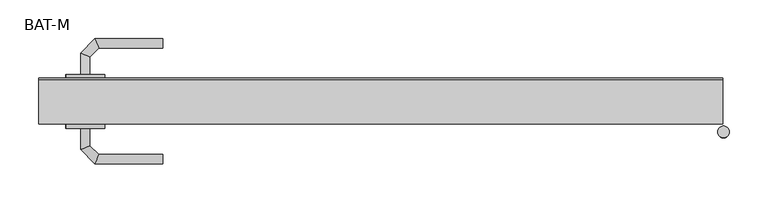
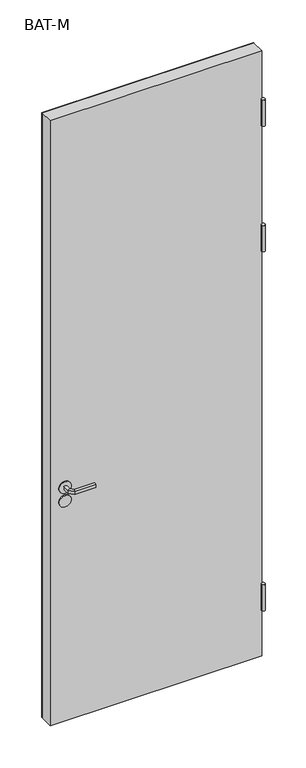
"""IFC4 building model written with IfcOpenShell, lengths in millimetres: proxy geometry, BAT-M : Défaut."""

from ifc_helpers import new_model, si_unit, point, frame, frame_2d, origin, place, context, project, spatial, polyline, circle_curve, ellipse_curve, trimmed, segment, composite_curve, outline, extrude, source, transform, mapped, element, save
from ifc_brep_helpers import plane_surface, cylinder_surface, advanced_brep


def bat_m_3c3fd91e(model_context):
    return source(origin(), model_context, "Body", "SolidModel", [
        extrude(outline(composite_curve([segment(polyline([(1126.0, -807.5306002), (1126.0, -872.5306002), (916.0, -872.5306002), (916.0, -807.5306002)]), True, "CONTINUOUS"), segment(trimmed(circle_curve(frame_2d((956.0, -807.5306002)), 40.0), [point((916.0, -807.5306002))], [point((956.0, -767.5306002))], False, "CARTESIAN"), True, "CONTINUOUS"), segment(polyline([(956.0, -767.5306002), (1086.0, -767.5306002)]), True, "CONTINUOUS"), segment(trimmed(circle_curve(frame_2d((1086.0, -807.5306002)), 40.0), [point((1086.0, -767.5306002))], [point((1126.0, -807.5306002))], False, "CARTESIAN"), True, "CONTINUOUS")], self_intersect=False)), frame((0.0, 7.9132708, 0.0), z_axis=(0.0, 1.0, 0.0), x_axis=(0.0, 0.0, 1.0)), (0.0, 0.0, 1.0), 43.4267377),
        extrude(outline(composite_curve([segment(trimmed(circle_curve(frame_2d((1051.0, -822.7739009)), 25.0), [point((1051.0, -847.7739009))], [point((1051.0, -797.7739009))], False, "CARTESIAN"), True, "CONTINUOUS"), segment(trimmed(circle_curve(frame_2d((1051.0, -822.7739009)), 25.0), [point((1051.0, -797.7739009))], [point((1051.0, -847.7739009))], False, "CARTESIAN"), True, "CONTINUOUS")], self_intersect=False)), frame((0.0, 59.5, 0.0), z_axis=(0.0, 1.0, 0.0), x_axis=(0.0, 0.0, 1.0)), (0.0, 0.0, 1.0), 5.0),
        extrude(outline(composite_curve([segment(trimmed(circle_curve(frame_2d((991.25, -822.9257392)), 25.0), [point((991.25, -847.9257392))], [point((991.25, -797.9257392))], False, "CARTESIAN"), True, "CONTINUOUS"), segment(trimmed(circle_curve(frame_2d((991.25, -822.9257392)), 25.0), [point((991.25, -797.9257392))], [point((991.25, -847.9257392))], False, "CARTESIAN"), True, "CONTINUOUS")], self_intersect=False)), frame((0.0, 59.5, 0.0), z_axis=(0.0, 1.0, 0.0), x_axis=(0.0, 0.0, 1.0)), (0.0, 0.0, 1.0), 5.0),
        advanced_brep(
        [(-817.0, 64.5, 1044.0), (-817.0, 64.5, 1058.0), (-829.0, 64.5, 1058.0), (-829.0, 64.5, 1044.0), (-817.0, 86.9852045, 1044.0), (-817.0, 86.9852045, 1058.0), (-829.0, 91.9557673, 1058.0), (-829.0, 91.9557673, 1044.0), (-805.5147186, 98.4704859, 1044.0), (-805.5147186, 98.4704859, 1058.0), (-810.4852814, 110.4704859, 1058.0), (-810.4852814, 110.4704859, 1044.0), (-722.9542163, 98.4704859, 1044.0), (-722.9542163, 110.4704859, 1044.0), (-722.9542163, 110.4704859, 1058.0), (-722.9542163, 98.4704859, 1058.0)],
        [
            (0, 1),
            (1, 2, circle_curve(frame((-823.0, 64.5, 1037.9542278), z_axis=(0.0, -1.0, 0.0), x_axis=(-1.0, 0.0, 0.0)), 20.9244589)),
            (2, 3),
            (3, 0, circle_curve(frame((-823.0, 64.5, 1064.0457722), z_axis=(0.0, -1.0, 0.0), x_axis=(-1.0, 0.0, 0.0)), 20.9244589)),
            (0, 4),
            (4, 5),
            (5, 1),
            (5, 6, ellipse_curve(frame((-823.0, 89.4704859, 1037.9542278), z_axis=(-0.3826834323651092, -0.9238795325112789, 0.0), x_axis=(0.9238795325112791, -0.3826834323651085, 0.0)), 22.6484711, 20.9244589)),
            (6, 2),
            (6, 7),
            (7, 3),
            (7, 4, ellipse_curve(frame((-823.0, 89.4704859, 1064.0457722), z_axis=(-0.3826834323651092, -0.9238795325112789, 0.0), x_axis=(0.9238795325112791, -0.3826834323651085, 0.0)), 22.6484711, 20.9244589)),
            (4, 8),
            (8, 9),
            (9, 5),
            (9, 10, ellipse_curve(frame((-808.0, 104.4704859, 1037.9542278), z_axis=(-0.923879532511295, -0.38268343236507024, 0.0), x_axis=(0.3826834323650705, -0.9238795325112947, 0.0)), 22.6484711, 20.9244589)),
            (10, 6),
            (10, 11),
            (11, 7),
            (11, 8, ellipse_curve(frame((-808.0, 104.4704859, 1064.0457722), z_axis=(-0.923879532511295, -0.38268343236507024, 0.0), x_axis=(0.3826834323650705, -0.9238795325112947, 0.0)), 22.6484711, 20.9244589)),
            (12, 13, circle_curve(frame((-722.9542163, 104.4704859, 1064.0457722), z_axis=(1.0, 0.0, 0.0), x_axis=(0.0, 1.0, 0.0)), 20.9244589)),
            (13, 14),
            (14, 15, circle_curve(frame((-722.9542163, 104.4704859, 1037.9542278), z_axis=(1.0, 0.0, 0.0), x_axis=(0.0, 1.0, 0.0)), 20.9244589)),
            (15, 12),
            (8, 12),
            (15, 9),
            (14, 10),
            (13, 11),
        ],
        [
            plane_surface(frame((-832.2195445, 64.5, 1051.0), z_axis=(0.0, -1.0, 0.0), x_axis=(0.0, 0.0, 1.0))),
            plane_surface(frame((-817.0, 64.5, 1044.0), z_axis=(1.0, 0.0, 0.0), x_axis=(0.0, 1.0, 0.0))),
            cylinder_surface(frame((-823.0, 64.5, 1037.9542278), z_axis=(0.0, -1.0, 0.0), x_axis=(-1.0, 0.0, 0.0)), 20.9244589),
            plane_surface(frame((-829.0, 64.5, 1058.0), z_axis=(-1.0, 0.0, 0.0), x_axis=(0.0, 1.0, 0.0))),
            cylinder_surface(frame((-823.0, 64.5, 1064.0457722), z_axis=(0.0, -1.0, 0.0), x_axis=(-1.0, 0.0, 0.0)), 20.9244589),
            plane_surface(frame((-817.0, 86.9852045, 1044.0), z_axis=(0.7071067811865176, -0.7071067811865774, 0.0), x_axis=(0.7071067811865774, 0.7071067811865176, 0.0))),
            cylinder_surface(frame((-823.0, 89.4704859, 1037.9542278), z_axis=(-0.7071067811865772, -0.7071067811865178, 0.0), x_axis=(-0.7071067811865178, 0.7071067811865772, 0.0)), 20.9244589),
            plane_surface(frame((-829.0, 91.9557673, 1058.0), z_axis=(-0.7071067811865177, 0.7071067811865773, 0.0), x_axis=(0.7071067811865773, 0.7071067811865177, 0.0))),
            cylinder_surface(frame((-823.0, 89.4704859, 1064.0457722), z_axis=(-0.7071067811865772, -0.7071067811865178, 0.0), x_axis=(-0.7071067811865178, 0.7071067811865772, 0.0)), 20.9244589),
            plane_surface(frame((-722.9542163, 104.4704859, 1041.7804555), z_axis=(1.0, 0.0, 0.0), x_axis=(0.0, 1.0, 0.0))),
            plane_surface(frame((-805.5147186, 98.4704859, 1044.0), z_axis=(0.0, -1.0, 0.0), x_axis=(1.0, 0.0, 0.0))),
            cylinder_surface(frame((-808.0, 104.4704859, 1037.9542278), z_axis=(-1.0, 0.0, 0.0), x_axis=(0.0, 1.0, 0.0)), 20.9244589),
            plane_surface(frame((-810.4852814, 110.4704859, 1058.0), z_axis=(0.0, 1.0, 0.0), x_axis=(1.0, 0.0, 0.0))),
            cylinder_surface(frame((-808.0, 104.4704859, 1064.0457722), z_axis=(-1.0, 0.0, 0.0), x_axis=(0.0, 1.0, 0.0)), 20.9244589),
        ],
        [
            (0, [[1, 2, 3, 4]]),
            (1, [[-1, 5, 6, 7]]),
            (2, [[-2, -7, 8, 9]]),
            (3, [[-3, -9, 10, 11]]),
            (4, [[-4, -11, 12, -5]]),
            (5, [[-6, 13, 14, 15]]),
            (6, [[-8, -15, 16, 17]]),
            (7, [[-10, -17, 18, 19]]),
            (8, [[-12, -19, 20, -13]]),
            (9, [[21, 22, 23, 24]]),
            (10, [[-14, 25, -24, 26]]),
            (11, [[-16, -26, -23, 27]]),
            (12, [[-18, -27, -22, 28]]),
            (13, [[-20, -28, -21, -25]]),
        ],
    ),
        advanced_brep(
        [(-829.0, -5.0, 1058.0), (-817.0, -5.0, 1058.0), (-817.0, -5.0, 1044.0), (-829.0, -5.0, 1044.0), (-829.0, -32.6509507, 1058.0), (-817.0, -27.680388, 1058.0), (-817.0, -27.680388, 1044.0), (-829.0, -32.6509507, 1044.0), (-810.62279, -51.0281607, 1058.0), (-805.6522273, -39.0281607, 1058.0), (-805.6522273, -39.0281607, 1044.0), (-810.62279, -51.0281607, 1044.0), (-722.9813594, -51.0281607, 1058.0), (-722.9813594, -51.0281607, 1044.0), (-722.9813594, -39.0281607, 1044.0), (-722.9813594, -39.0281607, 1058.0)],
        [
            (0, 1, circle_curve(frame((-823.0, -5.0, 1037.9542278), z_axis=(0.0, 1.0, 0.0), x_axis=(1.0, 0.0, 0.0)), 20.9244589)),
            (1, 2),
            (2, 3, circle_curve(frame((-823.0, -5.0, 1064.0457722), z_axis=(0.0, 1.0, 0.0), x_axis=(1.0, 0.0, 0.0)), 20.9244589)),
            (3, 0),
            (0, 4),
            (4, 5, ellipse_curve(frame((-823.0, -30.1656693, 1037.9542278), z_axis=(-0.38268343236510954, 0.9238795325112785, 0.0), x_axis=(0.9238795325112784, 0.38268343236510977, 0.0)), 22.6484711, 20.9244589)),
            (5, 1),
            (5, 6),
            (6, 2),
            (6, 7, ellipse_curve(frame((-823.0, -30.1656693, 1064.0457722), z_axis=(-0.38268343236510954, 0.9238795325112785, 0.0), x_axis=(0.9238795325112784, 0.38268343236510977, 0.0)), 22.6484711, 20.9244589)),
            (7, 3),
            (7, 4),
            (4, 8),
            (8, 9, ellipse_curve(frame((-808.1375086, -45.0281607, 1037.9542278), z_axis=(-0.9238795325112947, 0.38268343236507, 0.0), x_axis=(0.38268343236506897, 0.9238795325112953, 0.0)), 22.6484711, 20.9244589)),
            (9, 5),
            (9, 10),
            (10, 6),
            (10, 11, ellipse_curve(frame((-808.1375086, -45.0281607, 1064.0457722), z_axis=(-0.9238795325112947, 0.38268343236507, 0.0), x_axis=(0.38268343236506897, 0.9238795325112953, 0.0)), 22.6484711, 20.9244589)),
            (11, 7),
            (11, 8),
            (12, 13),
            (13, 14, circle_curve(frame((-722.9813594, -45.0281607, 1064.0457722), z_axis=(1.0, 0.0, 0.0), x_axis=(0.0, 1.0, 0.0)), 20.9244589)),
            (14, 15),
            (15, 12, circle_curve(frame((-722.9813594, -45.0281607, 1037.9542278), z_axis=(1.0, 0.0, 0.0), x_axis=(0.0, 1.0, 0.0)), 20.9244589)),
            (8, 12),
            (15, 9),
            (14, 10),
            (13, 11),
        ],
        [
            plane_surface(frame((-832.2195445, -5.0, 1051.0), z_axis=(0.0, 1.0, 0.0), x_axis=(0.0, 0.0, -1.0))),
            cylinder_surface(frame((-823.0, -5.0, 1037.9542278), z_axis=(0.0, 1.0, 0.0), x_axis=(1.0, 0.0, 0.0)), 20.9244589),
            plane_surface(frame((-817.0, -5.0, 1058.0), z_axis=(1.0, 0.0, 0.0), x_axis=(0.0, -1.0, 0.0))),
            cylinder_surface(frame((-823.0, -5.0, 1064.0457722), z_axis=(0.0, 1.0, 0.0), x_axis=(1.0, 0.0, 0.0)), 20.9244589),
            plane_surface(frame((-829.0, -5.0, 1044.0), z_axis=(-1.0, 0.0, 0.0), x_axis=(0.0, -1.0, 0.0))),
            cylinder_surface(frame((-823.0, -30.1656693, 1037.9542278), z_axis=(-0.7071067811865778, 0.7071067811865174, 0.0), x_axis=(0.7071067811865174, 0.7071067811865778, 0.0)), 20.9244589),
            plane_surface(frame((-817.0, -27.680388, 1058.0), z_axis=(0.707106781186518, 0.7071067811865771, 0.0), x_axis=(0.7071067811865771, -0.707106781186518, 0.0))),
            cylinder_surface(frame((-823.0, -30.1656693, 1064.0457722), z_axis=(-0.7071067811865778, 0.7071067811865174, 0.0), x_axis=(0.7071067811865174, 0.7071067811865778, 0.0)), 20.9244589),
            plane_surface(frame((-829.0, -32.6509507, 1044.0), z_axis=(-0.7071067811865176, -0.7071067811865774, 0.0), x_axis=(0.7071067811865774, -0.7071067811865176, 0.0))),
            plane_surface(frame((-722.9813594, -45.0281607, 1041.7804555), z_axis=(1.0, 0.0, 0.0), x_axis=(0.0, 1.0, 0.0))),
            cylinder_surface(frame((-808.1375086, -45.0281607, 1037.9542278), z_axis=(-1.0, 0.0, 0.0), x_axis=(0.0, 1.0, 0.0)), 20.9244589),
            plane_surface(frame((-805.6522273, -39.0281607, 1058.0), z_axis=(0.0, 1.0, 0.0), x_axis=(1.0, 0.0, 0.0))),
            cylinder_surface(frame((-808.1375086, -45.0281607, 1064.0457722), z_axis=(-1.0, 0.0, 0.0), x_axis=(0.0, 1.0, 0.0)), 20.9244589),
            plane_surface(frame((-810.62279, -51.0281607, 1044.0), z_axis=(0.0, -1.0, 0.0), x_axis=(1.0, 0.0, 0.0))),
        ],
        [
            (0, [[1, 2, 3, 4]]),
            (1, [[-1, 5, 6, 7]]),
            (2, [[-2, -7, 8, 9]]),
            (3, [[-3, -9, 10, 11]]),
            (4, [[-4, -11, 12, -5]]),
            (5, [[-6, 13, 14, 15]]),
            (6, [[-8, -15, 16, 17]]),
            (7, [[-10, -17, 18, 19]]),
            (8, [[-12, -19, 20, -13]]),
            (9, [[21, 22, 23, 24]]),
            (10, [[-14, 25, -24, 26]]),
            (11, [[-16, -26, -23, 27]]),
            (12, [[-18, -27, -22, 28]]),
            (13, [[-20, -28, -21, -25]]),
        ],
    ),
        extrude(outline(composite_curve([segment(trimmed(circle_curve(frame_2d((1051.0, -822.7739009)), 25.0), [point((1051.0, -847.7739009))], [point((1051.0, -797.7739009))], False, "CARTESIAN"), True, "CONTINUOUS"), segment(trimmed(circle_curve(frame_2d((1051.0, -822.7739009)), 25.0), [point((1051.0, -797.7739009))], [point((1051.0, -847.7739009))], False, "CARTESIAN"), True, "CONTINUOUS")], self_intersect=False)), frame((0.0, -5.0, 0.0), z_axis=(0.0, 1.0, 0.0), x_axis=(0.0, 0.0, 1.0)), (0.0, 0.0, 1.0), 5.0),
        extrude(outline(composite_curve([segment(trimmed(circle_curve(frame_2d((991.0, -822.9257392)), 25.0), [point((991.0, -847.9257392))], [point((991.0, -797.9257392))], False, "CARTESIAN"), True, "CONTINUOUS"), segment(trimmed(circle_curve(frame_2d((991.0, -822.9257392)), 25.0), [point((991.0, -797.9257392))], [point((991.0, -847.9257392))], False, "CARTESIAN"), True, "CONTINUOUS")], self_intersect=False)), frame((0.0, -5.0, 0.0), z_axis=(0.0, 1.0, 0.0), x_axis=(0.0, 0.0, 1.0)), (0.0, 0.0, 1.0), 5.0),
        extrude(outline(polyline([(-1.0, 57.5), (-883.0, 57.5), (-883.0, 59.5), (-1.0, 59.5), (-1.0, 57.5)])), frame((0.0, 0.0, 19.0), z_axis=(0.0, 0.0, 1.0), x_axis=(1.0, 0.0, 0.0)), (0.0, 0.0, 1.0), 2668.0),
        extrude(outline(polyline([(-883.0, 57.5), (-883.0, 59.5), (-1.0, 59.5), (-1.0, 57.5), (-883.0, 57.5)])), frame((0.0, 0.0, 19.0), z_axis=(0.0, 0.0, 1.0), x_axis=(1.0, 0.0, 0.0)), (0.0, 0.0, 1.0), 2668.0),
        extrude(outline(polyline([(-883.0, 59.5), (-1.0, 59.5), (-1.0, 0.0), (-883.0, 0.0), (-883.0, 59.5)])), frame((0.0, 0.0, 19.0), z_axis=(0.0, 0.0, 1.0), x_axis=(1.0, 0.0, 0.0)), (0.0, 0.0, 1.0), 2668.0),
        extrude(outline(composite_curve([segment(trimmed(circle_curve(frame_2d((0.0, -10.0)), 7.5), [point((7.5, -10.0))], [point((-7.5, -10.0))], False, "CARTESIAN"), True, "CONTINUOUS"), segment(trimmed(circle_curve(frame_2d((0.0, -10.0)), 7.5), [point((-7.5, -10.0))], [point((7.5, -10.0))], False, "CARTESIAN"), True, "CONTINUOUS")], self_intersect=False)), frame((0.0, 0.0, 2364.5), z_axis=(0.0, 0.0, 1.0), x_axis=(1.0, 0.0, 0.0)), (0.0, 0.0, 1.0), 115.0),
        extrude(outline(composite_curve([segment(trimmed(circle_curve(frame_2d((0.0, -10.0)), 7.5), [point((7.5, -10.0))], [point((-7.5, -10.0))], False, "CARTESIAN"), True, "CONTINUOUS"), segment(trimmed(circle_curve(frame_2d((0.0, -10.0)), 7.5), [point((-7.5, -10.0))], [point((7.5, -10.0))], False, "CARTESIAN"), True, "CONTINUOUS")], self_intersect=False)), frame((0.0, 0.0, 1811.5), z_axis=(0.0, 0.0, 1.0), x_axis=(1.0, 0.0, 0.0)), (0.0, 0.0, 1.0), 115.0),
        extrude(outline(composite_curve([segment(trimmed(circle_curve(frame_2d((0.0, -10.0)), 7.5), [point((7.5, -10.0))], [point((-7.5, -10.0))], False, "CARTESIAN"), True, "CONTINUOUS"), segment(trimmed(circle_curve(frame_2d((0.0, -10.0)), 7.5), [point((-7.5, -10.0))], [point((7.5, -10.0))], False, "CARTESIAN"), True, "CONTINUOUS")], self_intersect=False)), frame((0.0, 0.0, 226.5), z_axis=(0.0, 0.0, 1.0), x_axis=(1.0, 0.0, 0.0)), (0.0, 0.0, 1.0), 115.0),
    ])


if __name__ == "__main__":
    model = new_model("IFC4")
    model_context = context("Model", 3, world=origin())
    ifc_project = project(units=[si_unit("LENGTHUNIT", "METRE", prefix="MILLI")], contexts=[model_context])
    site = spatial("IfcSite", under=ifc_project)
    building = spatial("IfcBuilding", under=site)
    placement = place(None, origin())
    bat_m_shape = bat_m_3c3fd91e(model_context)
    element("IfcBuildingElementProxy", 1, Name="BAT-M : Défaut", ObjectType="BAT-M : Défaut", at=placement, inside=building, context=model_context, shape_type="MappedRepresentation", body=[
        mapped(bat_m_shape, transform((0.0, 0.0, 0.0), x_axis=(1.0, 0.0, 0.0), y_axis=(0.0, 1.0, 0.0), z_axis=(0.0, 0.0, 1.0))),
    ])
    save(model, "model.ifc")
